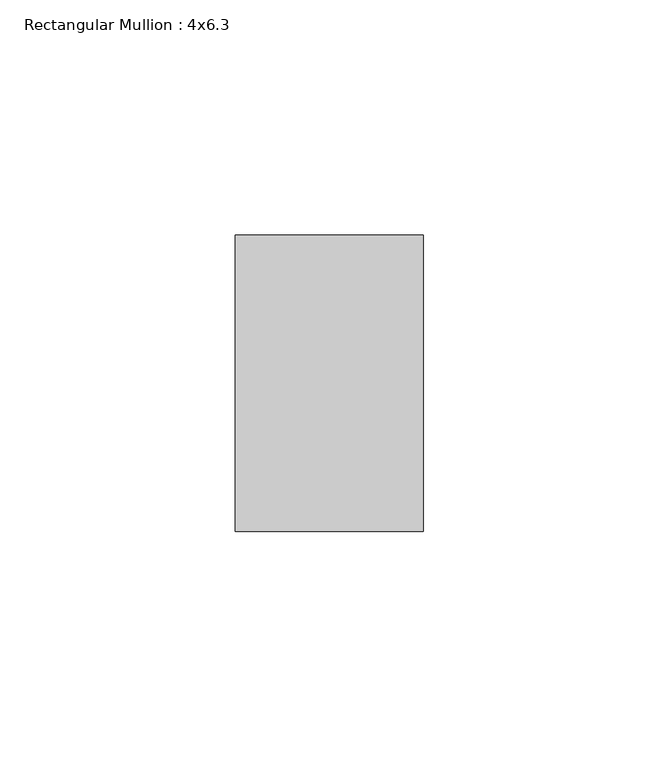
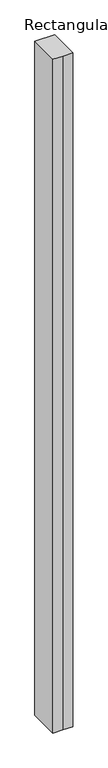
"""IFC4 building model written with IfcOpenShell, lengths in millimetres: member geometry, Rectangular Mullion : 4x6.3."""

import ifcopenshell
import ifcopenshell.guid

model = None  # the IFC model being written
_history = None  # IfcOwnerHistory: only IFC2X3 demands one
_inside = {}  # id of a spatial element -> (the spatial element, [elements in it])
_under = {}  # id of a project, library or spatial element -> (it, [spatial elements below it])
_declared = {}  # id of a project -> (the project, [libraries it declares])
_typed = {}  # id of a type object -> (the type object, [elements of that type])
_made_of = {}  # id of a material, layer set ... -> (it, [elements and type objects made of it])


def new_model(schema):
    """Start an empty IFC model of exactly this schema.

    Asked for "IFC4X3", IfcOpenShell would pick the latest addendum, in which some entities
    have other attributes; the version numbers below select the first issue.
    IFC2X3 requires an IfcOwnerHistory on every rooted entity: one is made here for all.
    """
    global model, _history
    if schema == "IFC4X3":
        model = ifcopenshell.file(schema_version=(4, 3, 0, 0))
    else:
        model = ifcopenshell.file(schema=schema)
    _inside.clear()
    _under.clear()
    _declared.clear()
    _typed.clear()
    _made_of.clear()
    _history = None
    if model.schema == "IFC2X3":
        org = make("IfcOrganization", Name="unknown")
        user = make(
            "IfcPersonAndOrganization",
            ThePerson=make("IfcPerson", FamilyName="unknown"),
            TheOrganization=org,
        )
        app = make(
            "IfcApplication",
            ApplicationDeveloper=org,
            Version="unknown",
            ApplicationFullName="unknown",
            ApplicationIdentifier="unknown",
        )
        _history = make(
            "IfcOwnerHistory",
            OwningUser=user,
            OwningApplication=app,
            ChangeAction="ADDED",
            CreationDate=0,
        )
    return model


def make(cls, **values):
    """One entity of the class cls with the attributes given. An attribute that is None is left unset."""
    return model.create_entity(
        cls, **{name: value for name, value in values.items() if value is not None}
    )


def rooted(cls, **values):
    """An entity with a GlobalId (a new one), such as an element, a storey or a relation."""
    return make(cls, GlobalId=ifcopenshell.guid.new(), OwnerHistory=_history, **values)


def si_unit(unit_type, name, prefix=None):
    """IfcSIUnit, for example si_unit("LENGTHUNIT", "METRE", prefix="MILLI")."""
    return make("IfcSIUnit", UnitType=unit_type, Prefix=prefix, Name=name)


def assignment(units):
    """IfcUnitAssignment: the units of a project."""
    return None if units is None else make("IfcUnitAssignment", Units=units)


def point(xyz):
    """IfcCartesianPoint."""
    return None if xyz is None else make("IfcCartesianPoint", Coordinates=xyz)


def direction(xyz):
    """IfcDirection."""
    return None if xyz is None else make("IfcDirection", DirectionRatios=xyz)


def frame(location, z_axis=None, x_axis=None):
    """IfcAxis2Placement3D, a coordinate frame: its origin and axes. An axis left out is left unset."""
    return make(
        "IfcAxis2Placement3D",
        Location=point(location),
        Axis=direction(z_axis),
        RefDirection=direction(x_axis),
    )


def origin():
    """The frame at (0, 0, 0) with its axes left unset."""
    return frame((0.0, 0.0, 0.0))


def place(relative_to, where):
    """IfcLocalPlacement: puts the frame where relative to a parent placement (None: the world)."""
    return make(
        "IfcLocalPlacement", PlacementRelTo=relative_to, RelativePlacement=where
    )


def context(
    kind, dimensions, precision=None, world=None, true_north=None, identifier=None
):
    """IfcGeometricRepresentationContext, for example the 3D "Model" context."""
    return make(
        "IfcGeometricRepresentationContext",
        ContextIdentifier=identifier,
        ContextType=kind,
        CoordinateSpaceDimension=dimensions,
        Precision=precision,
        WorldCoordinateSystem=world,
        TrueNorth=true_north,
    )


def project(units=None, contexts=None):
    """IfcProject with its units and contexts."""
    return rooted(
        "IfcProject",
        Name="project",
        RepresentationContexts=contexts,
        UnitsInContext=assignment(units),
    )


def spatial(cls, under=None, at=None, **own):
    """A site, building, storey or space (cls), placed at a placement, below another one or the project."""
    s = rooted(cls, ObjectPlacement=at, **own)
    if under is not None:
        _under.setdefault(under.id(), (under, []))[1].append(s)
    return s


def polyline(points):
    """IfcPolyline through the points."""
    return make("IfcPolyline", Points=[point(p) for p in points])


def outline(outer, holes=None, kind="AREA"):
    """IfcArbitraryClosedProfileDef: a profile drawn as a closed curve; with holes, ...WithVoids."""
    if holes is None:
        return make("IfcArbitraryClosedProfileDef", ProfileType=kind, OuterCurve=outer)
    return make(
        "IfcArbitraryProfileDefWithVoids",
        ProfileType=kind,
        OuterCurve=outer,
        InnerCurves=holes,
    )


def extrude(swept, where, along, depth):
    """IfcExtrudedAreaSolid: the profile swept, set in the frame where, extruded along a direction by depth."""
    return make(
        "IfcExtrudedAreaSolid",
        SweptArea=swept,
        Position=where,
        ExtrudedDirection=direction(along),
        Depth=depth,
    )


def shape(context_of_items, identifier, shape_type, items):
    """IfcShapeRepresentation: the items that make up one representation, for example the "Body"."""
    return make(
        "IfcShapeRepresentation",
        ContextOfItems=context_of_items,
        RepresentationIdentifier=identifier,
        RepresentationType=shape_type,
        Items=items,
    )


def source(mapping_origin, context_of_items, identifier, shape_type, items):
    """IfcRepresentationMap: a shape defined once, which mapped items show again and again."""
    return make(
        "IfcRepresentationMap",
        MappingOrigin=mapping_origin,
        MappedRepresentation=shape(context_of_items, identifier, shape_type, items),
    )


def transform(
    local_origin,
    x_axis=None,
    y_axis=None,
    z_axis=None,
    scale=None,
    scale2=None,
    scale3=None,
    uniform=True,
):
    """IfcCartesianTransformationOperator3D, or its non-uniform kind. x_axis, y_axis, z_axis: its Axis1, 2, 3."""
    if uniform:
        return make(
            "IfcCartesianTransformationOperator3D",
            Axis1=direction(x_axis),
            Axis2=direction(y_axis),
            LocalOrigin=point(local_origin),
            Scale=scale,
            Axis3=direction(z_axis),
        )
    return make(
        "IfcCartesianTransformationOperator3DnonUniform",
        Axis1=direction(x_axis),
        Axis2=direction(y_axis),
        LocalOrigin=point(local_origin),
        Scale=scale,
        Axis3=direction(z_axis),
        Scale2=scale2,
        Scale3=scale3,
    )


def mapped(mapping_source, mapping_target):
    """IfcMappedItem: shows the shape of a source again, moved by a transform."""
    return make(
        "IfcMappedItem", MappingSource=mapping_source, MappingTarget=mapping_target
    )


def made_of(thing, what):
    """Note that an element or type object is made of a material, layer set ...; save() writes the relation."""
    if what is not None:
        _made_of.setdefault(what.id(), (what, []))[1].append(thing)
    return thing


def element(
    cls,
    number,
    at=None,
    inside=None,
    cuts=None,
    type_object=None,
    material=None,
    context=None,
    identifier="Body",
    shape_type=None,
    held_by="IfcProductDefinitionShape",
    body=None,
    shapes=None,
    **own,
):
    """One element of the class cls, such as IfcWall. Its Tag is "e" and its number.

    at: its placement. inside: the storey or other place that contains it. cuts: it is an
    opening in that element (IfcRelVoidsElement). A single representation is given by context,
    identifier, shape_type and body (its items); several are given by shapes. held_by: the class
    of the entity that holds the representations. save() writes the other relations.
    """
    e = rooted(cls, Tag="e%d" % number, ObjectPlacement=at, **own)
    if body is not None:
        shapes = [shape(context, identifier, shape_type, body)]
    if shapes is not None:
        e.Representation = make(held_by, Representations=shapes)
    if inside is not None:
        _inside.setdefault(inside.id(), (inside, []))[1].append(e)
    if cuts is not None:
        rooted(
            "IfcRelVoidsElement", RelatingBuildingElement=cuts, RelatedOpeningElement=e
        )
    if type_object is not None:
        _typed.setdefault(type_object.id(), (type_object, []))[1].append(e)
    return made_of(e, material)


def aggregate(whole, parts):
    """IfcRelAggregates: a whole, such as a stair, and the parts it consists of."""
    return rooted("IfcRelAggregates", RelatingObject=whole, RelatedObjects=parts)


def save(model, path):
    """Write the relations noted so far, then the file.

    IfcRelAggregates (storeys below a building ...), IfcRelContainedInSpatialStructure (elements
    in a storey), IfcRelDefinesByType, IfcRelAssociatesMaterial and IfcRelDeclares: one each for
    every whole, place, type object, material and project.
    """
    for whole, parts in _under.values():
        aggregate(whole, parts)
    for where, things in _inside.values():
        rooted(
            "IfcRelContainedInSpatialStructure",
            RelatedElements=things,
            RelatingStructure=where,
        )
    for kind, things in _typed.values():
        rooted("IfcRelDefinesByType", RelatedObjects=things, RelatingType=kind)
    for what, things in _made_of.values():
        rooted("IfcRelAssociatesMaterial", RelatedObjects=things, RelatingMaterial=what)
    for by, libraries in _declared.values():
        rooted("IfcRelDeclares", RelatingContext=by, RelatedDefinitions=libraries)
    model.write(path)


def rectangular_mullion_4x6_3_d4b18e42(model_context):
    return source(origin(), model_context, "Body", "SweptSolid", [
        extrude(outline(polyline([(-20.0, 20.0), (-20.0, 83.0), (20.0, 83.0), (20.0, 20.0), (0.0, 20.0), (-20.0, 20.0)])), frame((0.0, 0.0, -1439.0879417), z_axis=(0.0, 0.0, 1.0), x_axis=(1.0, 0.0, 0.0)), (0.0, 0.0, 1.0), 1439.0879417),
    ])


if __name__ == "__main__":
    model = new_model("IFC4")
    model_context = context("Model", 3, world=origin())
    ifc_project = project(units=[si_unit("LENGTHUNIT", "METRE", prefix="MILLI")], contexts=[model_context])
    site = spatial("IfcSite", under=ifc_project)
    building = spatial("IfcBuilding", under=site)
    placement = place(None, origin())
    rectangular_mullion_4x6_3_shape = rectangular_mullion_4x6_3_d4b18e42(model_context)
    element("IfcMember", 1, ObjectType="Rectangular Mullion : 4x6.3", at=placement, inside=building, context=model_context, shape_type="MappedRepresentation", body=[
        mapped(rectangular_mullion_4x6_3_shape, transform((0.0, 0.0, 0.0), x_axis=(1.0, 0.0, 0.0), y_axis=(0.0, 1.0, 0.0), z_axis=(0.0, 0.0, 1.0))),
    ])
    save(model, "model.ifc")
